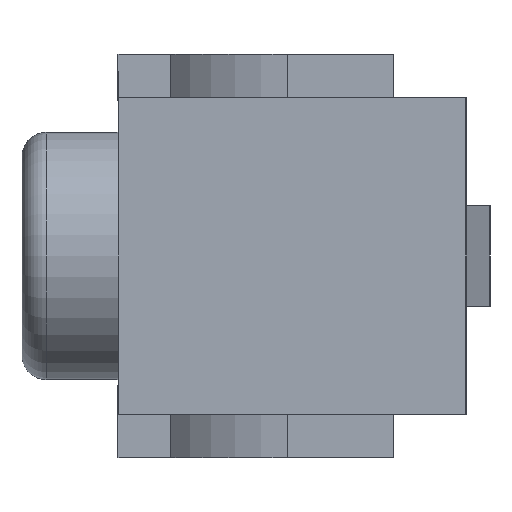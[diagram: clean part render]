
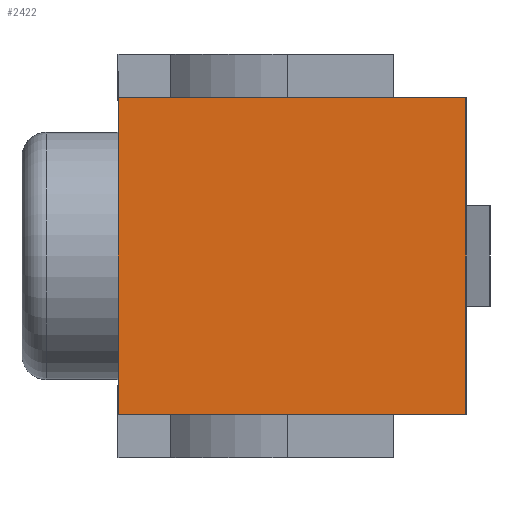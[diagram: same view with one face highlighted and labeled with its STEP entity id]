
A CAD part, left-side view. The second image highlights one B-rep face of the part: STEP entity #2422.
In plain terms, the highlighted planar face has unit normal (-1, 0, 0).
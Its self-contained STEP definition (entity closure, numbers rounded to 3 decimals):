
#148 = CARTESIAN_POINT ( 'NONE',  ( -6.75, 0., -6.6 ) ) ;
#153 = PLANE ( 'NONE',  #2625 ) ;
#158 = DIRECTION ( 'NONE',  ( -1., 0., 0. ) ) ;
#159 = DIRECTION ( 'NONE',  ( 0., -1., 0. ) ) ;
#350 = CARTESIAN_POINT ( 'NONE',  ( -6.75, 0., -6.6 ) ) ;
#357 = DIRECTION ( 'NONE',  ( 0., -1., 0. ) ) ;
#439 = CARTESIAN_POINT ( 'NONE',  ( -6.75, 14.5, -6.6 ) ) ;
#440 = DIRECTION ( 'NONE',  ( 0., 0., 1. ) ) ;
#475 = CARTESIAN_POINT ( 'NONE',  ( -6.75, 0., 6.6 ) ) ;
#476 = DIRECTION ( 'NONE',  ( 0., -1., 0. ) ) ;
#497 = CARTESIAN_POINT ( 'NONE',  ( -6.75, 0., -6.6 ) ) ;
#498 = DIRECTION ( 'NONE',  ( 0., 0., 1. ) ) ;
#641 = CARTESIAN_POINT ( 'NONE',  ( -6.75, 0., -6.6 ) ) ;
#644 = CARTESIAN_POINT ( 'NONE',  ( -6.75, 14.5, -6.6 ) ) ;
#731 = CARTESIAN_POINT ( 'NONE',  ( -6.75, 14.5, 6.6 ) ) ;
#737 = CARTESIAN_POINT ( 'NONE',  ( -6.75, 0., 6.6 ) ) ;
#866 = FACE_OUTER_BOUND ( 'NONE', #1200, .T. ) ;
#948 = LINE ( 'NONE', #350, #961 ) ;
#961 = VECTOR ( 'NONE', #357, 1000. ) ;
#1038 = LINE ( 'NONE', #439, #1039 ) ;
#1039 = VECTOR ( 'NONE', #440, 1000. ) ;
#1052 = VECTOR ( 'NONE', #476, 1000. ) ;
#1055 = LINE ( 'NONE', #475, #1052 ) ;
#1085 = LINE ( 'NONE', #497, #1086 ) ;
#1086 = VECTOR ( 'NONE', #498, 1000. ) ;
#1200 = EDGE_LOOP ( 'NONE', ( #1502, #1480, #1490, #1404 ) ) ;
#1404 = ORIENTED_EDGE ( 'NONE', *, *, #2483, .T. ) ;
#1480 = ORIENTED_EDGE ( 'NONE', *, *, #2539, .F. ) ;
#1490 = ORIENTED_EDGE ( 'NONE', *, *, #2523, .F. ) ;
#1502 = ORIENTED_EDGE ( 'NONE', *, *, #2549, .T. ) ;
#2422 = ADVANCED_FACE ( 'NONE', ( #866 ), #153, .T. ) ;
#2483 = EDGE_CURVE ( 'NONE', #3121, #3118, #948, .T. ) ;
#2523 = EDGE_CURVE ( 'NONE', #3121, #3208, #1038, .T. ) ;
#2539 = EDGE_CURVE ( 'NONE', #3208, #3214, #1055, .T. ) ;
#2549 = EDGE_CURVE ( 'NONE', #3118, #3214, #1085, .T. ) ;
#2625 = AXIS2_PLACEMENT_3D ( 'NONE', #148, #158, #159 ) ;
#3118 = VERTEX_POINT ( 'NONE', #641 ) ;
#3121 = VERTEX_POINT ( 'NONE', #644 ) ;
#3208 = VERTEX_POINT ( 'NONE', #731 ) ;
#3214 = VERTEX_POINT ( 'NONE', #737 ) ;
